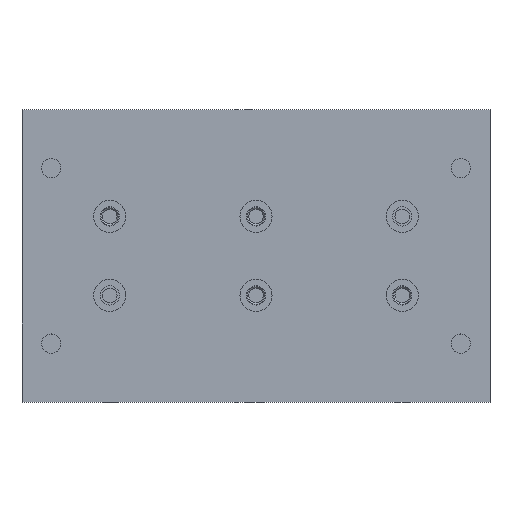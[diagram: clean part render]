
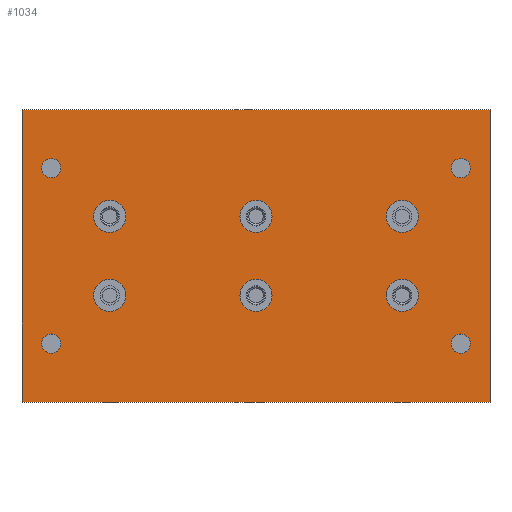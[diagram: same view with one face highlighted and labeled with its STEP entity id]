
A CAD part, top view. The second image highlights one B-rep face of the part: STEP entity #1034.
In plain terms, the highlighted planar face has unit normal (0, 0, 1) as drawn and (0, 0, -1) by its records, which use the part's own axes.
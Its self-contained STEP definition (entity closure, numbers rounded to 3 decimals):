
#1=DIRECTION('',(0.,-1.,0.));
#2=VECTOR('',#1,100.);
#3=CARTESIAN_POINT('',(0.,50.,0.));
#4=LINE('',#3,#2);
#5=DIRECTION('',(1.,0.,0.));
#6=VECTOR('',#5,160.);
#7=CARTESIAN_POINT('',(0.,-50.,0.));
#8=LINE('',#7,#6);
#9=DIRECTION('',(0.,1.,0.));
#10=VECTOR('',#9,100.);
#11=CARTESIAN_POINT('',(160.,-50.,0.));
#12=LINE('',#11,#10);
#13=DIRECTION('',(-1.,0.,0.));
#14=VECTOR('',#13,160.);
#15=CARTESIAN_POINT('',(160.,50.,0.));
#16=LINE('',#15,#14);
#17=CARTESIAN_POINT('',(30.,-13.5,0.));
#18=DIRECTION('',(0.,0.,-1.));
#19=DIRECTION('',(1.,0.,0.));
#20=AXIS2_PLACEMENT_3D('',#17,#18,#19);
#22=CARTESIAN_POINT('',(30.,-13.5,0.));
#23=DIRECTION('',(0.,0.,-1.));
#24=DIRECTION('',(-1.,0.,0.));
#25=AXIS2_PLACEMENT_3D('',#22,#23,#24);
#27=CARTESIAN_POINT('',(80.,-13.5,0.));
#28=DIRECTION('',(0.,0.,-1.));
#29=DIRECTION('',(1.,0.,0.));
#30=AXIS2_PLACEMENT_3D('',#27,#28,#29);
#32=CARTESIAN_POINT('',(80.,-13.5,0.));
#33=DIRECTION('',(0.,0.,-1.));
#34=DIRECTION('',(-1.,0.,0.));
#35=AXIS2_PLACEMENT_3D('',#32,#33,#34);
#37=CARTESIAN_POINT('',(130.,-13.5,0.));
#38=DIRECTION('',(0.,0.,-1.));
#39=DIRECTION('',(1.,0.,0.));
#40=AXIS2_PLACEMENT_3D('',#37,#38,#39);
#42=CARTESIAN_POINT('',(130.,-13.5,0.));
#43=DIRECTION('',(0.,0.,-1.));
#44=DIRECTION('',(-1.,0.,0.));
#45=AXIS2_PLACEMENT_3D('',#42,#43,#44);
#47=CARTESIAN_POINT('',(30.,13.5,0.));
#48=DIRECTION('',(0.,0.,-1.));
#49=DIRECTION('',(1.,0.,0.));
#50=AXIS2_PLACEMENT_3D('',#47,#48,#49);
#52=CARTESIAN_POINT('',(30.,13.5,0.));
#53=DIRECTION('',(0.,0.,-1.));
#54=DIRECTION('',(-1.,0.,0.));
#55=AXIS2_PLACEMENT_3D('',#52,#53,#54);
#57=CARTESIAN_POINT('',(80.,13.5,0.));
#58=DIRECTION('',(0.,0.,-1.));
#59=DIRECTION('',(1.,0.,0.));
#60=AXIS2_PLACEMENT_3D('',#57,#58,#59);
#62=CARTESIAN_POINT('',(80.,13.5,0.));
#63=DIRECTION('',(0.,0.,-1.));
#64=DIRECTION('',(-1.,0.,0.));
#65=AXIS2_PLACEMENT_3D('',#62,#63,#64);
#67=CARTESIAN_POINT('',(130.,13.5,0.));
#68=DIRECTION('',(0.,0.,-1.));
#69=DIRECTION('',(1.,0.,0.));
#70=AXIS2_PLACEMENT_3D('',#67,#68,#69);
#72=CARTESIAN_POINT('',(130.,13.5,0.));
#73=DIRECTION('',(0.,0.,-1.));
#74=DIRECTION('',(-1.,0.,0.));
#75=AXIS2_PLACEMENT_3D('',#72,#73,#74);
#77=CARTESIAN_POINT('',(10.,-30.,0.));
#78=DIRECTION('',(0.,0.,1.));
#79=DIRECTION('',(-1.,0.,0.));
#80=AXIS2_PLACEMENT_3D('',#77,#78,#79);
#82=CARTESIAN_POINT('',(10.,-30.,0.));
#83=DIRECTION('',(0.,0.,1.));
#84=DIRECTION('',(1.,0.,0.));
#85=AXIS2_PLACEMENT_3D('',#82,#83,#84);
#87=CARTESIAN_POINT('',(150.,-30.,0.));
#88=DIRECTION('',(0.,0.,1.));
#89=DIRECTION('',(-1.,0.,0.));
#90=AXIS2_PLACEMENT_3D('',#87,#88,#89);
#92=CARTESIAN_POINT('',(150.,-30.,0.));
#93=DIRECTION('',(0.,0.,1.));
#94=DIRECTION('',(1.,0.,0.));
#95=AXIS2_PLACEMENT_3D('',#92,#93,#94);
#97=CARTESIAN_POINT('',(10.,30.,0.));
#98=DIRECTION('',(0.,0.,1.));
#99=DIRECTION('',(-1.,0.,0.));
#100=AXIS2_PLACEMENT_3D('',#97,#98,#99);
#102=CARTESIAN_POINT('',(10.,30.,0.));
#103=DIRECTION('',(0.,0.,1.));
#104=DIRECTION('',(1.,0.,0.));
#105=AXIS2_PLACEMENT_3D('',#102,#103,#104);
#107=CARTESIAN_POINT('',(150.,30.,0.));
#108=DIRECTION('',(0.,0.,1.));
#109=DIRECTION('',(-1.,0.,0.));
#110=AXIS2_PLACEMENT_3D('',#107,#108,#109);
#112=CARTESIAN_POINT('',(150.,30.,0.));
#113=DIRECTION('',(0.,0.,1.));
#114=DIRECTION('',(1.,0.,0.));
#115=AXIS2_PLACEMENT_3D('',#112,#113,#114);
#741=CARTESIAN_POINT('',(0.,50.,0.));
#742=CARTESIAN_POINT('',(0.,-50.,0.));
#743=VERTEX_POINT('',#741);
#744=VERTEX_POINT('',#742);
#745=CARTESIAN_POINT('',(160.,-50.,0.));
#746=VERTEX_POINT('',#745);
#747=CARTESIAN_POINT('',(160.,50.,0.));
#748=VERTEX_POINT('',#747);
#797=CARTESIAN_POINT('',(35.5,-13.5,0.));
#798=CARTESIAN_POINT('',(24.5,-13.5,0.));
#799=VERTEX_POINT('',#797);
#800=VERTEX_POINT('',#798);
#813=CARTESIAN_POINT('',(85.5,-13.5,0.));
#814=CARTESIAN_POINT('',(74.5,-13.5,0.));
#815=VERTEX_POINT('',#813);
#816=VERTEX_POINT('',#814);
#829=CARTESIAN_POINT('',(135.5,-13.5,0.));
#830=CARTESIAN_POINT('',(124.5,-13.5,0.));
#831=VERTEX_POINT('',#829);
#832=VERTEX_POINT('',#830);
#845=CARTESIAN_POINT('',(35.5,13.5,0.));
#846=CARTESIAN_POINT('',(24.5,13.5,0.));
#847=VERTEX_POINT('',#845);
#848=VERTEX_POINT('',#846);
#861=CARTESIAN_POINT('',(85.5,13.5,0.));
#862=CARTESIAN_POINT('',(74.5,13.5,0.));
#863=VERTEX_POINT('',#861);
#864=VERTEX_POINT('',#862);
#877=CARTESIAN_POINT('',(135.5,13.5,0.));
#878=CARTESIAN_POINT('',(124.5,13.5,0.));
#879=VERTEX_POINT('',#877);
#880=VERTEX_POINT('',#878);
#893=CARTESIAN_POINT('',(6.7,-30.,0.));
#894=CARTESIAN_POINT('',(13.3,-30.,0.));
#895=VERTEX_POINT('',#893);
#896=VERTEX_POINT('',#894);
#909=CARTESIAN_POINT('',(146.7,-30.,0.));
#910=CARTESIAN_POINT('',(153.3,-30.,0.));
#911=VERTEX_POINT('',#909);
#912=VERTEX_POINT('',#910);
#925=CARTESIAN_POINT('',(6.7,30.,0.));
#926=CARTESIAN_POINT('',(13.3,30.,0.));
#927=VERTEX_POINT('',#925);
#928=VERTEX_POINT('',#926);
#941=CARTESIAN_POINT('',(146.7,30.,0.));
#942=CARTESIAN_POINT('',(153.3,30.,0.));
#943=VERTEX_POINT('',#941);
#944=VERTEX_POINT('',#942);
#959=CARTESIAN_POINT('',(0.,0.,0.));
#960=DIRECTION('',(0.,0.,1.));
#961=DIRECTION('',(1.,0.,0.));
#962=AXIS2_PLACEMENT_3D('',#959,#960,#961);
#963=PLANE('',#962);
#965=ORIENTED_EDGE('',*,*,#964,.T.);
#967=ORIENTED_EDGE('',*,*,#966,.T.);
#969=ORIENTED_EDGE('',*,*,#968,.T.);
#971=ORIENTED_EDGE('',*,*,#970,.T.);
#972=EDGE_LOOP('',(#965,#967,#969,#971));
#973=FACE_OUTER_BOUND('',#972,.F.);
#975=ORIENTED_EDGE('',*,*,#974,.T.);
#977=ORIENTED_EDGE('',*,*,#976,.T.);
#978=EDGE_LOOP('',(#975,#977));
#979=FACE_BOUND('',#978,.F.);
#981=ORIENTED_EDGE('',*,*,#980,.T.);
#983=ORIENTED_EDGE('',*,*,#982,.T.);
#984=EDGE_LOOP('',(#981,#983));
#985=FACE_BOUND('',#984,.F.);
#987=ORIENTED_EDGE('',*,*,#986,.T.);
#989=ORIENTED_EDGE('',*,*,#988,.T.);
#990=EDGE_LOOP('',(#987,#989));
#991=FACE_BOUND('',#990,.F.);
#993=ORIENTED_EDGE('',*,*,#992,.T.);
#995=ORIENTED_EDGE('',*,*,#994,.T.);
#996=EDGE_LOOP('',(#993,#995));
#997=FACE_BOUND('',#996,.F.);
#999=ORIENTED_EDGE('',*,*,#998,.T.);
#1001=ORIENTED_EDGE('',*,*,#1000,.T.);
#1002=EDGE_LOOP('',(#999,#1001));
#1003=FACE_BOUND('',#1002,.F.);
#1005=ORIENTED_EDGE('',*,*,#1004,.T.);
#1007=ORIENTED_EDGE('',*,*,#1006,.T.);
#1008=EDGE_LOOP('',(#1005,#1007));
#1009=FACE_BOUND('',#1008,.F.);
#1011=ORIENTED_EDGE('',*,*,#1010,.F.);
#1013=ORIENTED_EDGE('',*,*,#1012,.F.);
#1014=EDGE_LOOP('',(#1011,#1013));
#1015=FACE_BOUND('',#1014,.F.);
#1017=ORIENTED_EDGE('',*,*,#1016,.F.);
#1019=ORIENTED_EDGE('',*,*,#1018,.F.);
#1020=EDGE_LOOP('',(#1017,#1019));
#1021=FACE_BOUND('',#1020,.F.);
#1023=ORIENTED_EDGE('',*,*,#1022,.F.);
#1025=ORIENTED_EDGE('',*,*,#1024,.F.);
#1026=EDGE_LOOP('',(#1023,#1025));
#1027=FACE_BOUND('',#1026,.F.);
#1029=ORIENTED_EDGE('',*,*,#1028,.F.);
#1031=ORIENTED_EDGE('',*,*,#1030,.F.);
#1032=EDGE_LOOP('',(#1029,#1031));
#1033=FACE_BOUND('',#1032,.F.);
#1034=ADVANCED_FACE('',(#973,#979,#985,#991,#997,#1003,#1009,#1015,#1021,#1027,
#1033),#963,.F.);
#21=CIRCLE('',#20,5.5);
#26=CIRCLE('',#25,5.5);
#31=CIRCLE('',#30,5.5);
#36=CIRCLE('',#35,5.5);
#41=CIRCLE('',#40,5.5);
#46=CIRCLE('',#45,5.5);
#51=CIRCLE('',#50,5.5);
#56=CIRCLE('',#55,5.5);
#61=CIRCLE('',#60,5.5);
#66=CIRCLE('',#65,5.5);
#71=CIRCLE('',#70,5.5);
#76=CIRCLE('',#75,5.5);
#81=CIRCLE('',#80,3.3);
#86=CIRCLE('',#85,3.3);
#91=CIRCLE('',#90,3.3);
#96=CIRCLE('',#95,3.3);
#101=CIRCLE('',#100,3.3);
#106=CIRCLE('',#105,3.3);
#111=CIRCLE('',#110,3.3);
#116=CIRCLE('',#115,3.3);
#964=EDGE_CURVE('',#743,#744,#4,.T.);
#966=EDGE_CURVE('',#744,#746,#8,.T.);
#968=EDGE_CURVE('',#746,#748,#12,.T.);
#970=EDGE_CURVE('',#748,#743,#16,.T.);
#974=EDGE_CURVE('',#799,#800,#21,.T.);
#976=EDGE_CURVE('',#800,#799,#26,.T.);
#980=EDGE_CURVE('',#815,#816,#31,.T.);
#982=EDGE_CURVE('',#816,#815,#36,.T.);
#986=EDGE_CURVE('',#831,#832,#41,.T.);
#988=EDGE_CURVE('',#832,#831,#46,.T.);
#992=EDGE_CURVE('',#847,#848,#51,.T.);
#994=EDGE_CURVE('',#848,#847,#56,.T.);
#998=EDGE_CURVE('',#863,#864,#61,.T.);
#1000=EDGE_CURVE('',#864,#863,#66,.T.);
#1004=EDGE_CURVE('',#879,#880,#71,.T.);
#1006=EDGE_CURVE('',#880,#879,#76,.T.);
#1010=EDGE_CURVE('',#895,#896,#81,.T.);
#1012=EDGE_CURVE('',#896,#895,#86,.T.);
#1016=EDGE_CURVE('',#911,#912,#91,.T.);
#1018=EDGE_CURVE('',#912,#911,#96,.T.);
#1022=EDGE_CURVE('',#927,#928,#101,.T.);
#1024=EDGE_CURVE('',#928,#927,#106,.T.);
#1028=EDGE_CURVE('',#943,#944,#111,.T.);
#1030=EDGE_CURVE('',#944,#943,#116,.T.);
